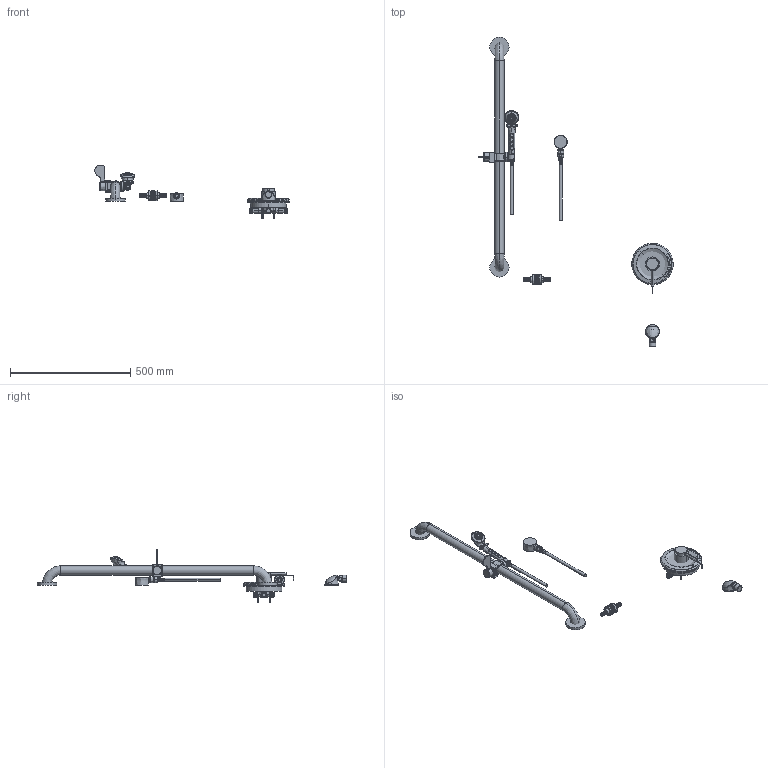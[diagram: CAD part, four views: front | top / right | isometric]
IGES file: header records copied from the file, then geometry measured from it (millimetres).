
Start section:  PTC IGES file: sh-pb5-00-055_REV011525.igs
Global section: file name: sh-pb5-00-055_REV011525.igs; native system: Creo Parametric by PTC Inc.; preprocessor: 2024253; author: rodjo; organization: Unknown; date: 20250115.085443; units: inch
Bounding box: 806.32 x 1283.64 x 222.53 mm (x, y, z)
Surface area: 458590.5 mm2 (no closed solid volume)
Topology: 0 solids, 0 shells, 1134 faces, 6152 edges, 6147 vertices
Faces by surface type: revolution 909, bspline 225
